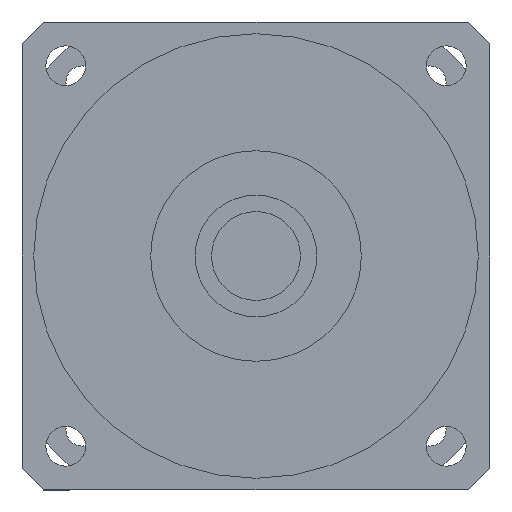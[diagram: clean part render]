
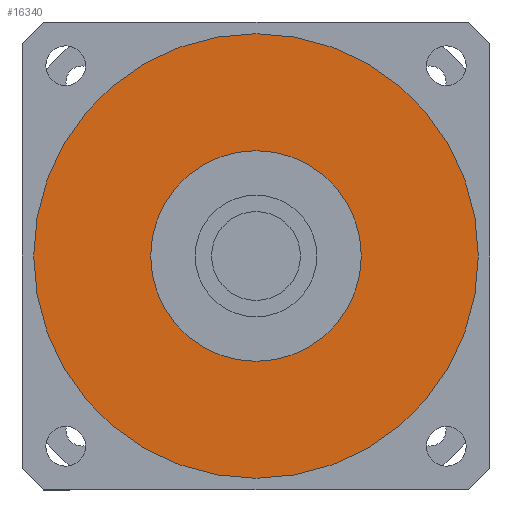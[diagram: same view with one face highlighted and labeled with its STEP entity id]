
A CAD part, left-side view. The second image highlights one B-rep face of the part: STEP entity #16340.
In plain terms, the highlighted planar face has unit normal (-1, 0, 0) as drawn and (0, 0, -1) by its records, which use the part's own axes.
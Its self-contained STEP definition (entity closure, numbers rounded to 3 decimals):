
#15730=CARTESIAN_POINT('',(0.,0.,
-113.5));
#15740=DIRECTION('',(0.,0.,1.));
#15750=DIRECTION('',(0.,-1.,0.));
#15760=AXIS2_PLACEMENT_3D('',#15730,#15740,#15750);
#15770=CIRCLE('',#15760,22.5);
#15780=CARTESIAN_POINT('',(0.,-22.5,-113.5));
#15790=VERTEX_POINT('',#15780);
#15800=CARTESIAN_POINT('',(22.5,0.,-113.5));
#15810=VERTEX_POINT('',#15800);
#15820=EDGE_CURVE('',#15790,#15810,#15770,.T.);
#15950=CARTESIAN_POINT('',(-22.5,0.,-113.5));
#15960=VERTEX_POINT('',#15950);
#15990=EDGE_CURVE('',#15960,#15790,#15770,.T.);
#16040=CARTESIAN_POINT('',(0.,0.,
-113.5));
#16050=DIRECTION('',(0.,0.,1.));
#16060=DIRECTION('',(-1.,0.,0.));
#16070=AXIS2_PLACEMENT_3D('',#16040,#16050,#16060);
#16080=PLANE('',#16070);
#16090=CARTESIAN_POINT('',(0.,0.,
-113.5));
#16100=DIRECTION('',(0.,0.,1.));
#16110=DIRECTION('',(0.,-1.,0.));
#16120=AXIS2_PLACEMENT_3D('',#16090,#16100,#16110);
#16130=CIRCLE('',#16120,47.5);
#16140=CARTESIAN_POINT('',(0.,-47.5,-113.5));
#16150=VERTEX_POINT('',#16140);
#16160=CARTESIAN_POINT('',(47.5,0.,-113.5));
#16170=VERTEX_POINT('',#16160);
#16180=EDGE_CURVE('',#16150,#16170,#16130,.T.);
#16190=ORIENTED_EDGE('',*,*,#16180,.F.);
#16200=CARTESIAN_POINT('',(-47.5,0.,-113.5));
#16210=VERTEX_POINT('',#16200);
#16220=EDGE_CURVE('',#16170,#16210,#16130,.T.);
#16230=ORIENTED_EDGE('',*,*,#16220,.F.);
#16240=EDGE_CURVE('',#16210,#16150,#16130,.T.);
#16250=ORIENTED_EDGE('',*,*,#16240,.F.);
#16260=EDGE_LOOP('',(#16250,#16230,#16190));
#16270=FACE_OUTER_BOUND('',#16260,.T.);
#16280=EDGE_CURVE('',#15810,#15960,#15770,.T.);
#16290=ORIENTED_EDGE('',*,*,#16280,.T.);
#16300=ORIENTED_EDGE('',*,*,#15820,.T.);
#16310=ORIENTED_EDGE('',*,*,#15990,.T.);
#16320=EDGE_LOOP('',(#16310,#16300,#16290));
#16330=FACE_BOUND('',#16320,.T.);
#16340=ADVANCED_FACE('',(#16270,#16330),#16080,.F.);
